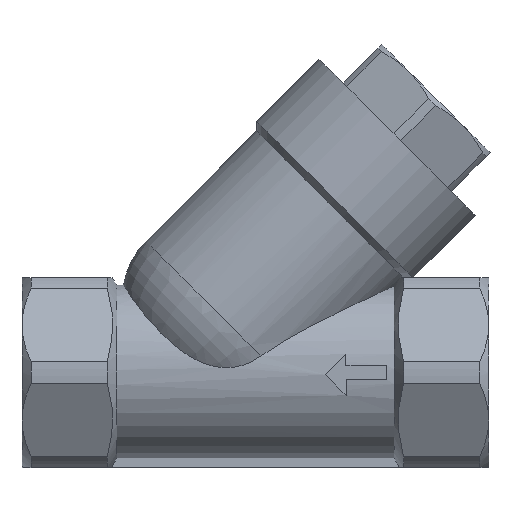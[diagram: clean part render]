
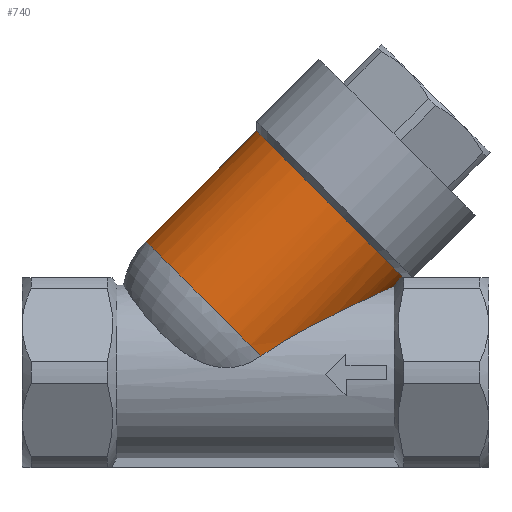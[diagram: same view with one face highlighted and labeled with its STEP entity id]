
A CAD part, top view. The second image highlights one B-rep face of the part: STEP entity #740.
In plain terms, the highlighted cylindrical face has radius 14.25 mm (diameter 28.5 mm), a partial arc.
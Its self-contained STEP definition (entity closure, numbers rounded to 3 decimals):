
#14 = VECTOR ( 'NONE', #2318, 1000. ) ;
#102 = B_SPLINE_CURVE_WITH_KNOTS ( 'NONE', 3,
 ( #1530, #2167, #2317, #3114, #2841, #3365 ),
 .UNSPECIFIED., .F., .F.,
 ( 4, 2, 4 ),
 ( 0., 0.001, 0.002 ),
 .UNSPECIFIED. ) ;
#144 = B_SPLINE_CURVE_WITH_KNOTS ( 'NONE', 3,
 ( #2505, #2476, #3006, #1729, #3314, #1686, #1950, #1978, #2286, #2493, #2306, #2942, #2955, #216, #170, #1143, #1117, #1240, #2687, #2304, #2254, #1604, #1780, #3243 ),
 .UNSPECIFIED., .F., .F.,
 ( 4, 2, 2, 2, 2, 2, 2, 2, 2, 2, 2, 4 ),
 ( 0., 0.001, 0.002, 0.003, 0.006, 0.007, 0.009, 0.012, 0.015, 0.018, 0.021, 0.024 ),
 .UNSPECIFIED. ) ;
#170 = CARTESIAN_POINT ( 'NONE',  ( 11.557, 8.355, 8.631 ) ) ;
#216 = CARTESIAN_POINT ( 'NONE',  ( 12.37, 8.751, 8.232 ) ) ;
#217 = CARTESIAN_POINT ( 'NONE',  ( 19., 11.861, 1.824 ) ) ;
#408 = DIRECTION ( 'NONE',  ( 0.707, 0.707, 0. ) ) ;
#492 = CARTESIAN_POINT ( 'NONE',  ( 34.804, 27.499, 0. ) ) ;
#640 = CYLINDRICAL_SURFACE ( 'NONE', #2766, 14.25 ) ;
#712 = CARTESIAN_POINT ( 'NONE',  ( 0.741, 2.259, 11.785 ) ) ;
#740 = ADVANCED_FACE ( 'NONE', ( #801 ), #640, .T. ) ;
#795 = AXIS2_PLACEMENT_3D ( 'NONE', #1966, #408, #2238 ) ;
#801 = FACE_OUTER_BOUND ( 'NONE', #1578, .T. ) ;
#803 = ORIENTED_EDGE ( 'NONE', *, *, #841, .F. ) ;
#823 = CARTESIAN_POINT ( 'NONE',  ( 19.798, 13., 3.176 ) ) ;
#839 = CARTESIAN_POINT ( 'NONE',  ( 0.156, 33.156, 0. ) ) ;
#841 = EDGE_CURVE ( 'NONE', #1022, #3059, #2646, .T. ) ;
#936 = CARTESIAN_POINT ( 'NONE',  ( 20.305, 13., 0. ) ) ;
#979 = CARTESIAN_POINT ( 'NONE',  ( 24.728, 37.575, 0. ) ) ;
#1022 = VERTEX_POINT ( 'NONE', #3348 ) ;
#1025 = CARTESIAN_POINT ( 'NONE',  ( 20.305, 13., 0. ) ) ;
#1072 = EDGE_CURVE ( 'NONE', #2842, #1298, #144, .T. ) ;
#1117 = CARTESIAN_POINT ( 'NONE',  ( 9.073, 7.116, 9.677 ) ) ;
#1143 = CARTESIAN_POINT ( 'NONE',  ( 9.909, 7.538, 9.353 ) ) ;
#1153 = DIRECTION ( 'NONE',  ( 0.707, 0.707, 0. ) ) ;
#1159 = ORIENTED_EDGE ( 'NONE', *, *, #1072, .F. ) ;
#1163 =( BOUNDED_CURVE ( )  B_SPLINE_CURVE ( 3, ( #823, #2723, #2941, #936 ),
 .UNSPECIFIED., .F., .T. ) 
 B_SPLINE_CURVE_WITH_KNOTS ( ( 4, 4 ),
 ( 6.058, 6.283 ),
 .UNSPECIFIED. ) 
 CURVE ( )  GEOMETRIC_REPRESENTATION_ITEM ( )  RATIONAL_B_SPLINE_CURVE ( ( 1., 0.996, 0.996, 1. ) ) 
 REPRESENTATION_ITEM ( '' )  );
#1168 = VECTOR ( 'NONE', #2799, 1000. ) ;
#1170 = ORIENTED_EDGE ( 'NONE', *, *, #2520, .F. ) ;
#1240 = CARTESIAN_POINT ( 'NONE',  ( 7.389, 6.242, 10.262 ) ) ;
#1298 = VERTEX_POINT ( 'NONE', #712 ) ;
#1323 = EDGE_CURVE ( 'NONE', #2014, #2842, #102, .T. ) ;
#1398 = LINE ( 'NONE', #492, #14 ) ;
#1530 = CARTESIAN_POINT ( 'NONE',  ( 19.798, 13., 3.176 ) ) ;
#1535 = VERTEX_POINT ( 'NONE', #1025 ) ;
#1578 = EDGE_LOOP ( 'NONE', ( #1819, #2603, #1170, #803, #2277, #1159, #2415 ) ) ;
#1604 = CARTESIAN_POINT ( 'NONE',  ( 2.358, 3.361, 11.532 ) ) ;
#1657 = EDGE_CURVE ( 'NONE', #2014, #1535, #1163, .T. ) ;
#1686 = CARTESIAN_POINT ( 'NONE',  ( 17.846, 11.331, 3.956 ) ) ;
#1729 = CARTESIAN_POINT ( 'NONE',  ( 18.26, 11.521, 3.362 ) ) ;
#1780 = CARTESIAN_POINT ( 'NONE',  ( 1.54, 2.831, 11.676 ) ) ;
#1814 = CIRCLE ( 'NONE', #795, 14.25 ) ;
#1819 = ORIENTED_EDGE ( 'NONE', *, *, #1657, .T. ) ;
#1943 = CARTESIAN_POINT ( 'NONE',  ( 14.652, 47.652, 0. ) ) ;
#1950 = CARTESIAN_POINT ( 'NONE',  ( 17.696, 11.262, 4.148 ) ) ;
#1966 = CARTESIAN_POINT ( 'NONE',  ( -4.924, 7.924, 0. ) ) ;
#1978 = CARTESIAN_POINT ( 'NONE',  ( 16.925, 10.906, 5.068 ) ) ;
#2014 = VERTEX_POINT ( 'NONE', #2815 ) ;
#2144 = CIRCLE ( 'NONE', #3157, 14.25 ) ;
#2167 = CARTESIAN_POINT ( 'NONE',  ( 19.653, 12.79, 2.975 ) ) ;
#2238 = DIRECTION ( 'NONE',  ( -0.707, 0.707, 0. ) ) ;
#2254 = CARTESIAN_POINT ( 'NONE',  ( 4.015, 4.374, 11.187 ) ) ;
#2277 = ORIENTED_EDGE ( 'NONE', *, *, #2601, .T. ) ;
#2281 = DIRECTION ( 'NONE',  ( 0.707, 0.707, 0. ) ) ;
#2286 = CARTESIAN_POINT ( 'NONE',  ( 16.229, 10.583, 5.697 ) ) ;
#2304 = CARTESIAN_POINT ( 'NONE',  ( 4.854, 4.856, 10.986 ) ) ;
#2306 = CARTESIAN_POINT ( 'NONE',  ( 14.735, 9.881, 6.817 ) ) ;
#2317 = CARTESIAN_POINT ( 'NONE',  ( 19.511, 12.587, 2.766 ) ) ;
#2318 = DIRECTION ( 'NONE',  ( 0.707, 0.707, 0. ) ) ;
#2415 = ORIENTED_EDGE ( 'NONE', *, *, #1323, .F. ) ;
#2476 = CARTESIAN_POINT ( 'NONE',  ( 18.84, 11.788, 2.298 ) ) ;
#2493 = CARTESIAN_POINT ( 'NONE',  ( 15.118, 10.061, 6.548 ) ) ;
#2502 = VERTEX_POINT ( 'NONE', #2973 ) ;
#2505 = CARTESIAN_POINT ( 'NONE',  ( 19., 11.861, 1.824 ) ) ;
#2520 = EDGE_CURVE ( 'NONE', #3059, #2502, #2144, .T. ) ;
#2578 = DIRECTION ( 'NONE',  ( -0.707, 0.707, 0. ) ) ;
#2601 = EDGE_CURVE ( 'NONE', #1022, #1298, #1814, .T. ) ;
#2603 = ORIENTED_EDGE ( 'NONE', *, *, #2761, .T. ) ;
#2646 = LINE ( 'NONE', #1943, #1168 ) ;
#2687 = CARTESIAN_POINT ( 'NONE',  ( 6.539, 5.79, 10.524 ) ) ;
#2720 = CARTESIAN_POINT ( 'NONE',  ( 10.232, 23.08, 0. ) ) ;
#2723 = CARTESIAN_POINT ( 'NONE',  ( 20.135, 13., 2.133 ) ) ;
#2761 = EDGE_CURVE ( 'NONE', #1535, #2502, #1398, .T. ) ;
#2766 = AXIS2_PLACEMENT_3D ( 'NONE', #979, #2281, #2578 ) ;
#2799 = DIRECTION ( 'NONE',  ( 0.707, 0.707, 0. ) ) ;
#2815 = CARTESIAN_POINT ( 'NONE',  ( 19.798, 13., 3.176 ) ) ;
#2841 = CARTESIAN_POINT ( 'NONE',  ( 19.116, 12.023, 2.082 ) ) ;
#2842 = VERTEX_POINT ( 'NONE', #217 ) ;
#2941 = CARTESIAN_POINT ( 'NONE',  ( 20.305, 13., 1.07 ) ) ;
#2942 = CARTESIAN_POINT ( 'NONE',  ( 13.958, 9.512, 7.322 ) ) ;
#2955 = CARTESIAN_POINT ( 'NONE',  ( 13.564, 9.324, 7.559 ) ) ;
#2973 = CARTESIAN_POINT ( 'NONE',  ( 20.309, 13.003, 0. ) ) ;
#2986 = DIRECTION ( 'NONE',  ( -0.707, 0.707, 0. ) ) ;
#3006 = CARTESIAN_POINT ( 'NONE',  ( 18.63, 11.691, 2.739 ) ) ;
#3059 = VERTEX_POINT ( 'NONE', #839 ) ;
#3114 = CARTESIAN_POINT ( 'NONE',  ( 19.243, 12.204, 2.319 ) ) ;
#3157 = AXIS2_PLACEMENT_3D ( 'NONE', #2720, #1153, #2986 ) ;
#3243 = CARTESIAN_POINT ( 'NONE',  ( 0.741, 2.259, 11.785 ) ) ;
#3314 = CARTESIAN_POINT ( 'NONE',  ( 18.127, 11.46, 3.564 ) ) ;
#3348 = CARTESIAN_POINT ( 'NONE',  ( -15., 18., 0. ) ) ;
#3365 = CARTESIAN_POINT ( 'NONE',  ( 19., 11.861, 1.824 ) ) ;
